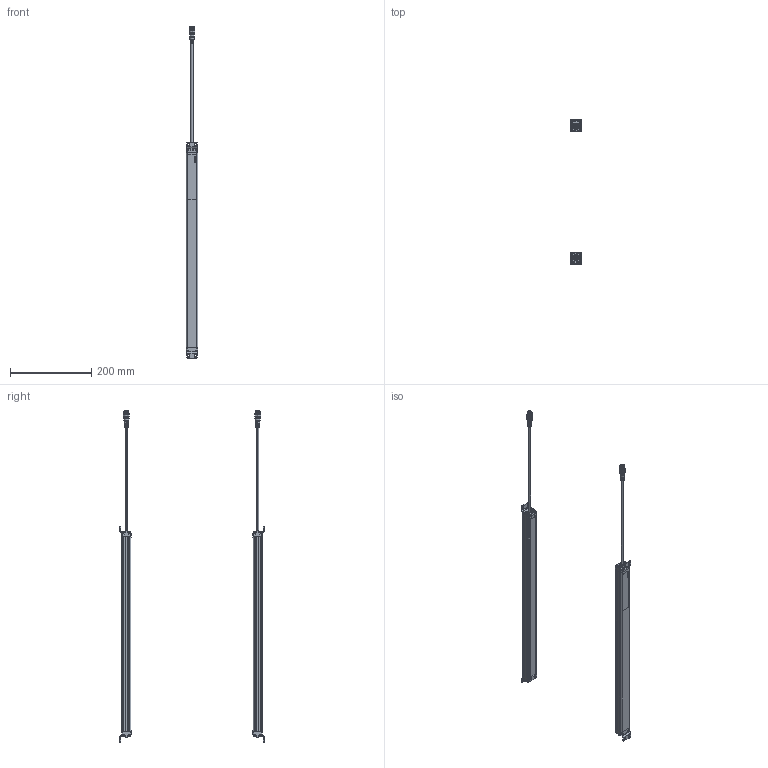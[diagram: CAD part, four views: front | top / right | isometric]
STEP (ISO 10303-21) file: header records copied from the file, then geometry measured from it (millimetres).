
FILE_DESCRIPTION (( 'STEP AP203' ), '1' );
FILE_NAME ('BWC40-12H_BWC40-12HD.STEP', '2018-07-19T11:45:59', ( 'Registered User' ), ( 'Microsoft Corporation' ), 'SwSTEP 2.0', 'SolidWorks 2015', '' );
FILE_SCHEMA (( 'CONFIG_CONTROL_DESIGN' ));
Products named in the file (1): BWC40-12H_BWC40-12HD
Bounding box: 28.6 x 354.1 x 815 mm (x, y, z)
Volume: 647638.9 mm3; surface area: 139325.6 mm2
Topology: 6 solids, 8 shells, 3752 faces, 10068 edges, 6348 vertices
Faces by surface type: cylinder 1638, plane 1426, cone 288, torus 154, bspline 150, sphere 96
Entity records: 129341 total; most frequent: CARTESIAN_POINT 34957, DIRECTION 20490, ORIENTED_EDGE 19912, EDGE_CURVE 9956, AXIS2_PLACEMENT_3D 8083, VERTEX_POINT 6332, CIRCLE 4480, VECTOR 4324
